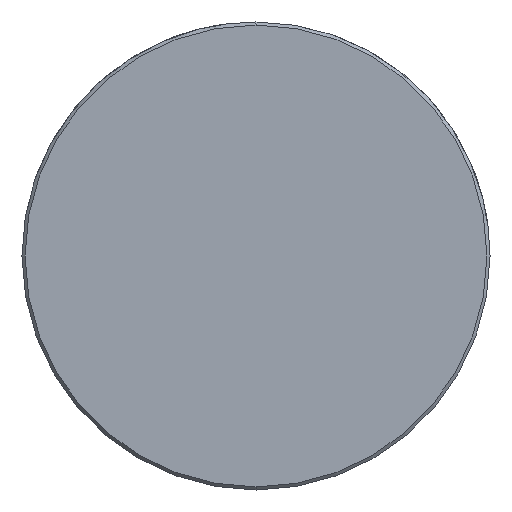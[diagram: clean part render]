
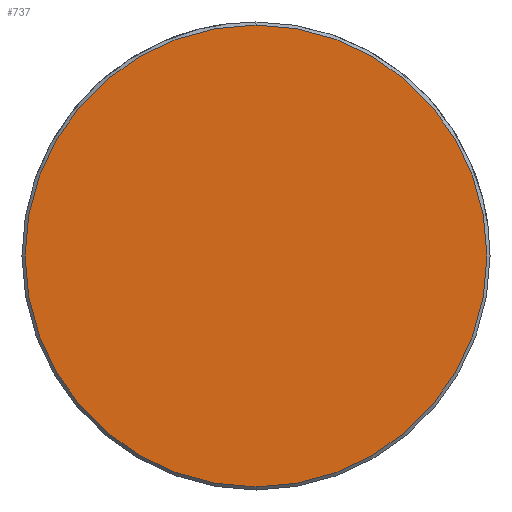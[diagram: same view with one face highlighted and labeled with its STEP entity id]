
A CAD part, left-side view. The second image highlights one B-rep face of the part: STEP entity #737.
In plain terms, the highlighted planar face has unit normal (-1, 0, 0).
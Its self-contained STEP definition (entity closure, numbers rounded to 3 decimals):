
#669=CARTESIAN_POINT('Vertex',(0.,0.,-22.2)) ;
#672=CARTESIAN_POINT('Axis2P3D Location',(0.,0.,0.)) ;
#676=CARTESIAN_POINT('Vertex',(0.,22.2,0.)) ;
#679=CARTESIAN_POINT('Axis2P3D Location',(0.,0.,0.)) ;
#683=CARTESIAN_POINT('Vertex',(0.,0.,22.2)) ;
#705=CARTESIAN_POINT('Axis2P3D Location',(0.,0.,0.)) ;
#709=CARTESIAN_POINT('Vertex',(0.,-22.2,0.)) ;
#712=CARTESIAN_POINT('Axis2P3D Location',(0.,0.,0.)) ;
#726=CARTESIAN_POINT('Axis2P3D Location',(0.,0.,0.)) ;
#673=DIRECTION('Axis2P3D Direction',(1.,0.,-0.)) ;
#680=DIRECTION('Axis2P3D Direction',(1.,0.,-0.)) ;
#706=DIRECTION('Axis2P3D Direction',(1.,0.,-0.)) ;
#713=DIRECTION('Axis2P3D Direction',(1.,0.,-0.)) ;
#727=DIRECTION('Axis2P3D Direction',(1.,0.,-0.)) ;
#728=DIRECTION('Axis2P3D XDirection',(-0.,0.,-1.)) ;
#674=AXIS2_PLACEMENT_3D('Circle Axis2P3D',#672,#673,$) ;
#681=AXIS2_PLACEMENT_3D('Circle Axis2P3D',#679,#680,$) ;
#707=AXIS2_PLACEMENT_3D('Circle Axis2P3D',#705,#706,$) ;
#714=AXIS2_PLACEMENT_3D('Circle Axis2P3D',#712,#713,$) ;
#729=AXIS2_PLACEMENT_3D('Plane Axis2P3D',#726,#727,#728) ;
#732=ORIENTED_EDGE('',*,*,#678,.F.) ;
#733=ORIENTED_EDGE('',*,*,#716,.F.) ;
#734=ORIENTED_EDGE('',*,*,#711,.F.) ;
#735=ORIENTED_EDGE('',*,*,#685,.F.) ;
#737=ADVANCED_FACE('549-40X140',(#736),#730,.F.) ;
#675=CIRCLE('generated circle',#674,22.2) ;
#682=CIRCLE('generated circle',#681,22.2) ;
#708=CIRCLE('generated circle',#707,22.2) ;
#715=CIRCLE('generated circle',#714,22.2) ;
#678=EDGE_CURVE('',#670,#677,#675,.T.) ;
#685=EDGE_CURVE('',#677,#684,#682,.T.) ;
#711=EDGE_CURVE('',#684,#710,#708,.T.) ;
#716=EDGE_CURVE('',#710,#670,#715,.T.) ;
#731=EDGE_LOOP('',(#732,#733,#734,#735)) ;
#736=FACE_OUTER_BOUND('',#731,.T.) ;
#730=PLANE('Plane',#729) ;
#670=VERTEX_POINT('',#669) ;
#677=VERTEX_POINT('',#676) ;
#684=VERTEX_POINT('',#683) ;
#710=VERTEX_POINT('',#709) ;
